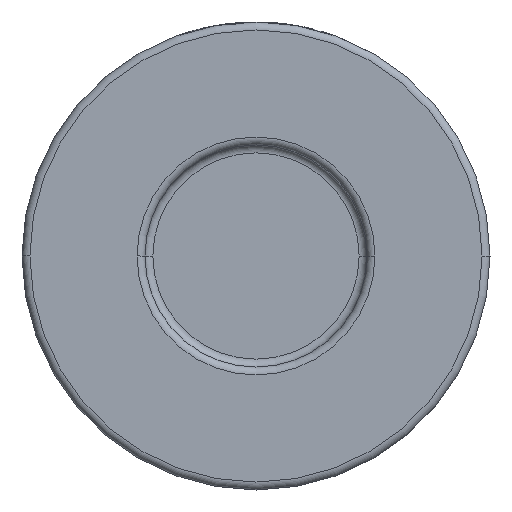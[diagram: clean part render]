
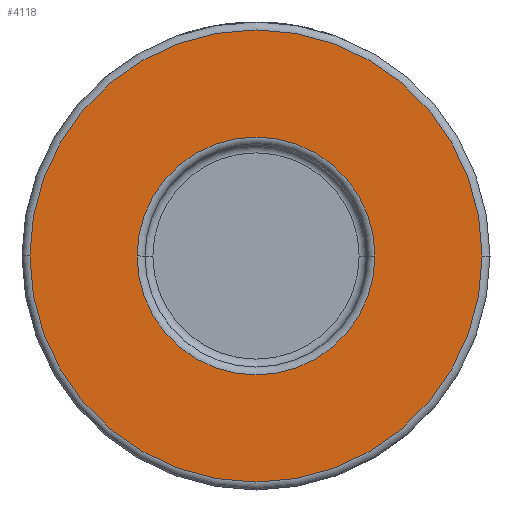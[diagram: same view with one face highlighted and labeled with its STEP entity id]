
A CAD part, front view. The second image highlights one B-rep face of the part: STEP entity #4118.
In plain terms, the highlighted planar face has unit normal (0, -1, 0).
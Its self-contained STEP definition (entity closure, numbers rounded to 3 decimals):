
#73 = CARTESIAN_POINT ( 'NONE',  ( 29.5, -19., 0. ) ) ;
#225 = DIRECTION ( 'NONE',  ( 1., 0., 0. ) ) ;
#291 = CARTESIAN_POINT ( 'NONE',  ( 0., -19., 0. ) ) ;
#379 = VERTEX_POINT ( 'NONE', #2231 ) ;
#416 = AXIS2_PLACEMENT_3D ( 'NONE', #291, #3730, #2624 ) ;
#633 = AXIS2_PLACEMENT_3D ( 'NONE', #1669, #2996, #3709 ) ;
#728 = DIRECTION ( 'NONE',  ( 1., 0., 0. ) ) ;
#796 = CARTESIAN_POINT ( 'NONE',  ( 15., -19., 0. ) ) ;
#901 = CARTESIAN_POINT ( 'NONE',  ( -28.5, -19., 0. ) ) ;
#1141 = CIRCLE ( 'NONE', #1282, 28.5 ) ;
#1177 = CARTESIAN_POINT ( 'NONE',  ( 28.5, -19., 0. ) ) ;
#1223 = VERTEX_POINT ( 'NONE', #1177 ) ;
#1282 = AXIS2_PLACEMENT_3D ( 'NONE', #2292, #3330, #225 ) ;
#1474 = EDGE_CURVE ( 'NONE', #4075, #379, #1698, .T. ) ;
#1550 = CARTESIAN_POINT ( 'NONE',  ( 0., -19., 0. ) ) ;
#1561 = EDGE_LOOP ( 'NONE', ( #4393, #3899 ) ) ;
#1669 = CARTESIAN_POINT ( 'NONE',  ( 0., -19., 0. ) ) ;
#1698 = CIRCLE ( 'NONE', #3309, 15. ) ;
#1758 = FACE_OUTER_BOUND ( 'NONE', #2774, .T. ) ;
#2231 = CARTESIAN_POINT ( 'NONE',  ( -15., -19., 0. ) ) ;
#2292 = CARTESIAN_POINT ( 'NONE',  ( 0., -19., 0. ) ) ;
#2386 = EDGE_CURVE ( 'NONE', #379, #4075, #3280, .T. ) ;
#2438 = EDGE_CURVE ( 'NONE', #1223, #2939, #3313, .T. ) ;
#2460 = FACE_BOUND ( 'NONE', #1561, .T. ) ;
#2624 = DIRECTION ( 'NONE',  ( 1., 0., 0. ) ) ;
#2774 = EDGE_LOOP ( 'NONE', ( #4147, #4007 ) ) ;
#2939 = VERTEX_POINT ( 'NONE', #901 ) ;
#2996 = DIRECTION ( 'NONE',  ( 0., -1., 0. ) ) ;
#3129 = PLANE ( 'NONE',  #3891 ) ;
#3206 = DIRECTION ( 'NONE',  ( 0., 1., 0. ) ) ;
#3280 = CIRCLE ( 'NONE', #416, 15. ) ;
#3309 = AXIS2_PLACEMENT_3D ( 'NONE', #1550, #3206, #4254 ) ;
#3313 = CIRCLE ( 'NONE', #633, 28.5 ) ;
#3330 = DIRECTION ( 'NONE',  ( 0., -1., 0. ) ) ;
#3709 = DIRECTION ( 'NONE',  ( 1., 0., 0. ) ) ;
#3730 = DIRECTION ( 'NONE',  ( 0., 1., 0. ) ) ;
#3838 = DIRECTION ( 'NONE',  ( 0., -1., 0. ) ) ;
#3891 = AXIS2_PLACEMENT_3D ( 'NONE', #73, #3838, #728 ) ;
#3899 = ORIENTED_EDGE ( 'NONE', *, *, #2386, .T. ) ;
#4007 = ORIENTED_EDGE ( 'NONE', *, *, #4195, .T. ) ;
#4075 = VERTEX_POINT ( 'NONE', #796 ) ;
#4118 = ADVANCED_FACE ( 'NONE', ( #2460, #1758 ), #3129, .T. ) ;
#4147 = ORIENTED_EDGE ( 'NONE', *, *, #2438, .T. ) ;
#4195 = EDGE_CURVE ( 'NONE', #2939, #1223, #1141, .T. ) ;
#4254 = DIRECTION ( 'NONE',  ( 1., 0., 0. ) ) ;
#4393 = ORIENTED_EDGE ( 'NONE', *, *, #1474, .T. ) ;
